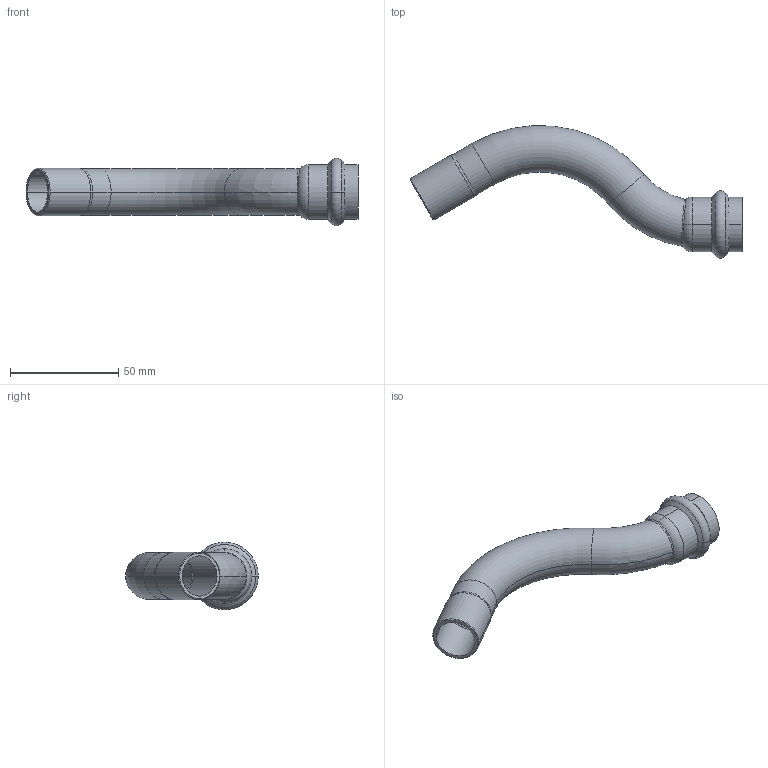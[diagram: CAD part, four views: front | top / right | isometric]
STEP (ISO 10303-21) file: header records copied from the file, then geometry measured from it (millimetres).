
FILE_DESCRIPTION (( 'STEP AP203' ), '1' );
FILE_NAME ('SP5086 Ø22.STEP', '2017-04-24T08:27:49', ( '' ), ( '' ), 'SwSTEP 2.0', 'SolidWorks 2016', '' );
FILE_SCHEMA (( 'CONFIG_CONTROL_DESIGN' ));
Length unit declared in the file: millimetre
Products named in the file (1): SP5086 ﾘ22
Bounding box: 153.38 x 61.25 x 31.2 mm (x, y, z)
Volume: 17957.8 mm3; surface area: 22001.5 mm2
Topology: 1 solids, 1 shells, 52 faces, 114 edges, 64 vertices
Faces by surface type: torus 20, cylinder 16, cone 12, bspline 2, plane 2
Entity records: 2072 total; most frequent: CARTESIAN_POINT 830, DIRECTION 278, ORIENTED_EDGE 228, AXIS2_PLACEMENT_3D 125, EDGE_CURVE 114, CIRCLE 74, VERTEX_POINT 64, EDGE_LOOP 54
